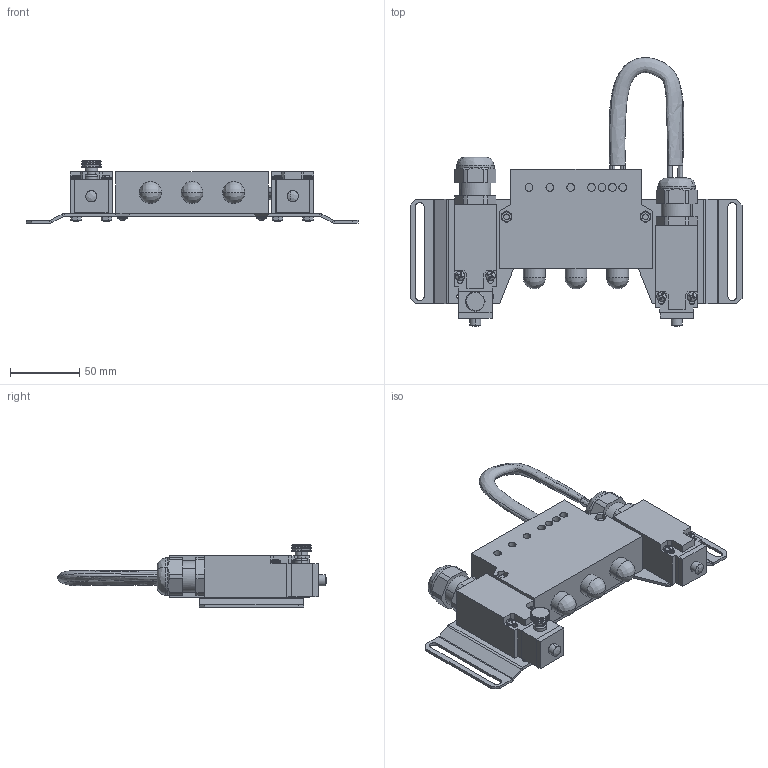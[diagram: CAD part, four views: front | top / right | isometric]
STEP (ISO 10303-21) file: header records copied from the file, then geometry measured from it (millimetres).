
FILE_DESCRIPTION(/* description */ (''),/* implementation_level */ '2;1');
FILE_NAME(/* name */ 'FD03',/* time_stamp */ '2019-07-02T09:07:12+02:00',/* author */ (''),/* organization */ (''),/* preprocessor_version */ 'ST-DEVELOPER v14',/* originating_system */ '',/* authorisation */ '');
FILE_SCHEMA (('CONFIG_CONTROL_DESIGN'));
Length unit declared in the file: millimetre
Products named in the file (1): Document
Bounding box: 239 x 193.61 x 44.9 mm (x, y, z)
Volume: 371822.5 mm3; surface area: 117951.1 mm2
Topology: 17 solids, 28 shells, 869 faces, 2292 edges, 1368 vertices
Faces by surface type: bspline 469, plane 400
Entity records: 36707 total; most frequent: CARTESIAN_POINT 23309, ORIENTED_EDGE 4266, EDGE_CURVE 2280, VERTEX_POINT 1368, B_SPLINE_CURVE_WITH_KNOTS 1318, EDGE_LOOP 972, ADVANCED_FACE 869, FACE_OUTER_BOUND 869
